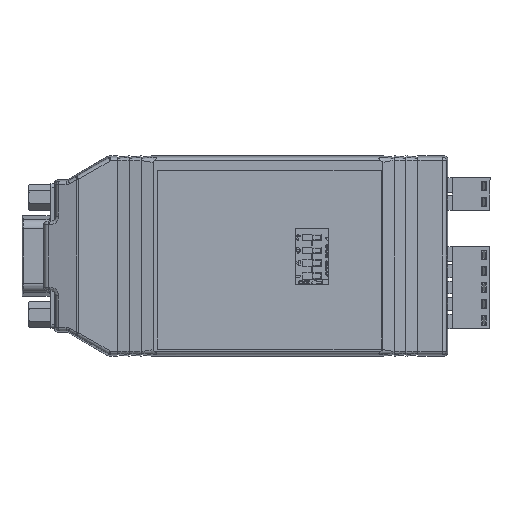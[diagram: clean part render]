
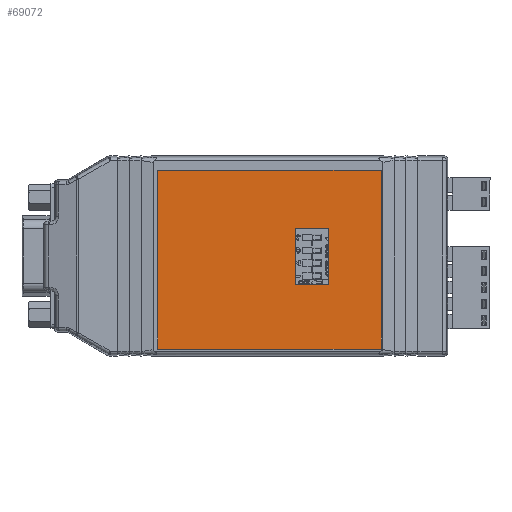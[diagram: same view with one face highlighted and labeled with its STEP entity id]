
A CAD part, front view. The second image highlights one B-rep face of the part: STEP entity #69072.
In plain terms, the highlighted planar face has unit normal (0, -1, 0) as drawn and (0, 1, 0) by its records, which use the part's own axes.
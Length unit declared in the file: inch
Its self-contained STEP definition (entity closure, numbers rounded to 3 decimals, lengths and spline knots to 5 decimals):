
#616 = EDGE_CURVE ( 'NONE', #54299, #30121, #19635, .T. ) ;
#1160 = LINE ( 'NONE', #17659, #34528 ) ;
#3584 = EDGE_CURVE ( 'NONE', #20072, #56900, #1160, .T. ) ;
#4609 = CARTESIAN_POINT ( 'NONE',  ( 0.43883, 0.01, -0.96109 ) ) ;
#4718 = CARTESIAN_POINT ( 'NONE',  ( 0.71883, 0.01, -0.96109 ) ) ;
#5692 = DIRECTION ( 'NONE',  ( 1., 0., 0. ) ) ;
#8927 = FACE_BOUND ( 'NONE', #83352, .T. ) ;
#9091 = CARTESIAN_POINT ( 'NONE',  ( 0.71883, 0.01, -0.96109 ) ) ;
#10959 = DIRECTION ( 'NONE',  ( 0., 0., 1. ) ) ;
#17659 = CARTESIAN_POINT ( 'NONE',  ( 0., 0.01, 0. ) ) ;
#18688 = ORIENTED_EDGE ( 'NONE', *, *, #42465, .T. ) ;
#18889 = ORIENTED_EDGE ( 'NONE', *, *, #83401, .F. ) ;
#19635 = LINE ( 'NONE', #4609, #72881 ) ;
#20072 = VERTEX_POINT ( 'NONE', #83872 ) ;
#20082 = LINE ( 'NONE', #73178, #69183 ) ;
#20442 = CARTESIAN_POINT ( 'NONE',  ( 1.875, 0.01, -1.5 ) ) ;
#21745 = EDGE_CURVE ( 'NONE', #56900, #29345, #57226, .T. ) ;
#24033 = DIRECTION ( 'NONE',  ( 0., 0., -1. ) ) ;
#24297 = VECTOR ( 'NONE', #80416, 39.37008 ) ;
#25750 = CARTESIAN_POINT ( 'NONE',  ( 0.43883, 0.01, -0.49109 ) ) ;
#26687 = EDGE_CURVE ( 'NONE', #62097, #71587, #68317, .T. ) ;
#29345 = VERTEX_POINT ( 'NONE', #62671 ) ;
#30121 = VERTEX_POINT ( 'NONE', #25750 ) ;
#30535 = EDGE_CURVE ( 'NONE', #29345, #54225, #20082, .T. ) ;
#31108 = DIRECTION ( 'NONE',  ( 0., 0., 1. ) ) ;
#31243 = ORIENTED_EDGE ( 'NONE', *, *, #3584, .T. ) ;
#31296 = ORIENTED_EDGE ( 'NONE', *, *, #616, .F. ) ;
#32027 = VECTOR ( 'NONE', #39011, 39.37008 ) ;
#34528 = VECTOR ( 'NONE', #10959, 39.37008 ) ;
#38149 = CARTESIAN_POINT ( 'NONE',  ( 0., 0.01, 0. ) ) ;
#38902 = CARTESIAN_POINT ( 'NONE',  ( 0., 0.01, 0. ) ) ;
#39011 = DIRECTION ( 'NONE',  ( 1., 0., 0. ) ) ;
#42465 = EDGE_CURVE ( 'NONE', #54225, #20072, #54209, .T. ) ;
#43369 = EDGE_LOOP ( 'NONE', ( #31243, #48310, #68365, #18688 ) ) ;
#43842 = PLANE ( 'NONE',  #69124 ) ;
#45798 = VECTOR ( 'NONE', #84068, 39.37008 ) ;
#48310 = ORIENTED_EDGE ( 'NONE', *, *, #21745, .T. ) ;
#48416 = VECTOR ( 'NONE', #84638, 39.37008 ) ;
#50557 = CARTESIAN_POINT ( 'NONE',  ( 0., 0.01, 0. ) ) ;
#50802 = CARTESIAN_POINT ( 'NONE',  ( 0., 0.01, -1.5 ) ) ;
#54209 = LINE ( 'NONE', #50802, #45798 ) ;
#54225 = VERTEX_POINT ( 'NONE', #20442 ) ;
#54299 = VERTEX_POINT ( 'NONE', #77705 ) ;
#54765 = CARTESIAN_POINT ( 'NONE',  ( 0.71883, 0.01, -0.49109 ) ) ;
#56900 = VERTEX_POINT ( 'NONE', #38149 ) ;
#57226 = LINE ( 'NONE', #38902, #74975 ) ;
#58531 = EDGE_CURVE ( 'NONE', #30121, #62097, #67549, .T. ) ;
#58918 = CARTESIAN_POINT ( 'NONE',  ( 0.43883, 0.01, -0.49109 ) ) ;
#60084 = FACE_OUTER_BOUND ( 'NONE', #43369, .T. ) ;
#62097 = VERTEX_POINT ( 'NONE', #54765 ) ;
#62671 = CARTESIAN_POINT ( 'NONE',  ( 1.875, 0.01, 0. ) ) ;
#64028 = DIRECTION ( 'NONE',  ( 0., -1., 0. ) ) ;
#67549 = LINE ( 'NONE', #58918, #32027 ) ;
#68317 = LINE ( 'NONE', #4718, #48416 ) ;
#68365 = ORIENTED_EDGE ( 'NONE', *, *, #30535, .T. ) ;
#69072 = ADVANCED_FACE ( 'NONE', ( #8927, #60084 ), #43842, .F. ) ;
#69124 = AXIS2_PLACEMENT_3D ( 'NONE', #50557, #64028, #24033 ) ;
#69183 = VECTOR ( 'NONE', #73468, 39.37008 ) ;
#71587 = VERTEX_POINT ( 'NONE', #9091 ) ;
#72881 = VECTOR ( 'NONE', #31108, 39.37008 ) ;
#73178 = CARTESIAN_POINT ( 'NONE',  ( 1.875, 0.01, 0. ) ) ;
#73468 = DIRECTION ( 'NONE',  ( 0., 0., -1. ) ) ;
#73993 = CARTESIAN_POINT ( 'NONE',  ( 0.43883, 0.01, -0.96109 ) ) ;
#74975 = VECTOR ( 'NONE', #5692, 39.37008 ) ;
#75337 = ORIENTED_EDGE ( 'NONE', *, *, #26687, .F. ) ;
#77705 = CARTESIAN_POINT ( 'NONE',  ( 0.43883, 0.01, -0.96109 ) ) ;
#79639 = LINE ( 'NONE', #73993, #24297 ) ;
#80416 = DIRECTION ( 'NONE',  ( -1., 0., 0. ) ) ;
#83352 = EDGE_LOOP ( 'NONE', ( #86462, #31296, #18889, #75337 ) ) ;
#83401 = EDGE_CURVE ( 'NONE', #71587, #54299, #79639, .T. ) ;
#83872 = CARTESIAN_POINT ( 'NONE',  ( 0., 0.01, -1.5 ) ) ;
#84068 = DIRECTION ( 'NONE',  ( -1., 0., 0. ) ) ;
#84638 = DIRECTION ( 'NONE',  ( 0., 0., -1. ) ) ;
#86462 = ORIENTED_EDGE ( 'NONE', *, *, #58531, .F. ) ;
